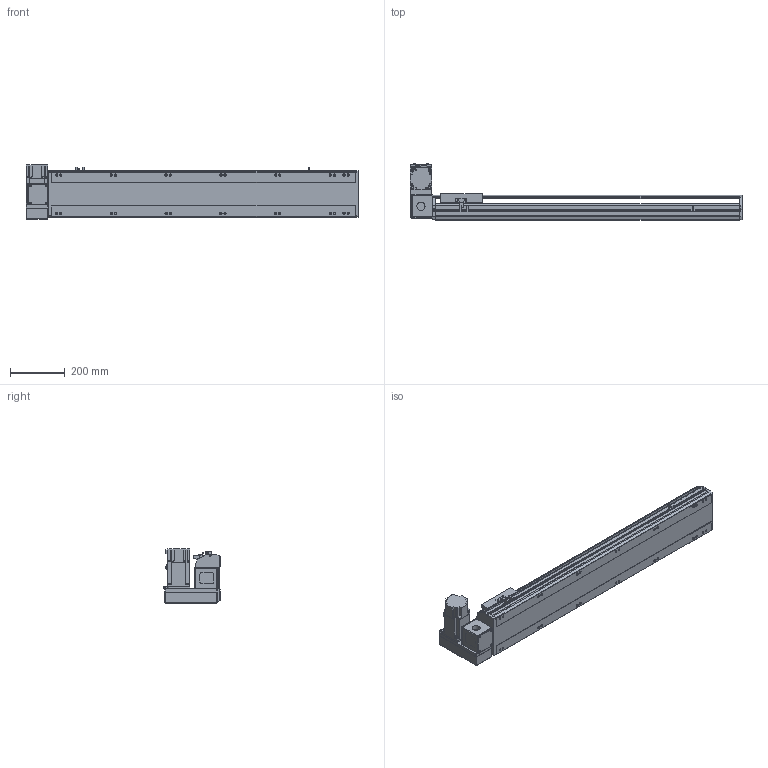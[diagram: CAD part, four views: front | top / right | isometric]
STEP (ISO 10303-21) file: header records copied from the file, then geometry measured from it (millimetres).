
FILE_DESCRIPTION( ( 'STEP AP214' ), '1' );
FILE_NAME( 'x:/temp/worker_4/temp/exporttempdir_2248_391_dZA2x/format_0/PBS170-P40-S850-LU-T75-C1-N(0).stp', '2022-06-07T08:14:50', ( 'License CC BY-ND 4.0' ), ( 'CADENAS' ), ' ', 'PARTsolutions', ' ' );
FILE_SCHEMA( ( 'AUTOMOTIVE_DESIGN { 1 0 10303 214 1 1 1 1 }' ) );
Length unit declared in the file: millimetre
Products named in the file (7): PBS170-P40-S850-LU-T75-C1-N(0); _PBS170-S850()_body; _PBS170T-LU_motors; _T75-p1; _PBS170_sliser; _PBS170_plant; _PBS170_sensor
Assembly tree (8 placements, depth 2):
  PBS170-P40-S850-LU-T75-C1-N(0)
    _PBS170-S850()_body
    _PBS170T-LU_motors
    _T75-p1
    _PBS170_sliser
    _PBS170_plant
    _PBS170_sensor  x3
Bounding box: 1213 x 206 x 197.3 mm (x, y, z)
Volume: 9918887.6 mm3; surface area: 1312294.1 mm2
Topology: 8 solids, 8 shells, 1066 faces, 2835 edges, 1848 vertices
Faces by surface type: plane 681, cylinder 331, cone 44, sphere 8, torus 2
Full cylindrical faces by diameter (mm): 3.242 x4, 4 x2, 4.4 x4, 4.5 x6, 4.917 x4, 6 x9, 6.647 x22, 7 x2, 7.5 x4, 8 x8, 8.5 x14, 10 x4, 10.5 x14, 11 x2, 30 x2, 40 x1, 70 x1
Entity records: 39098 total; most frequent: CARTESIAN_POINT 6053, DIRECTION 5230, ORIENTED_EDGE 4968, EDGE_CURVE 2484, AXIS2_PLACEMENT_3D 1807, VERTEX_POINT 1706, LINE 1616, VECTOR 1616
